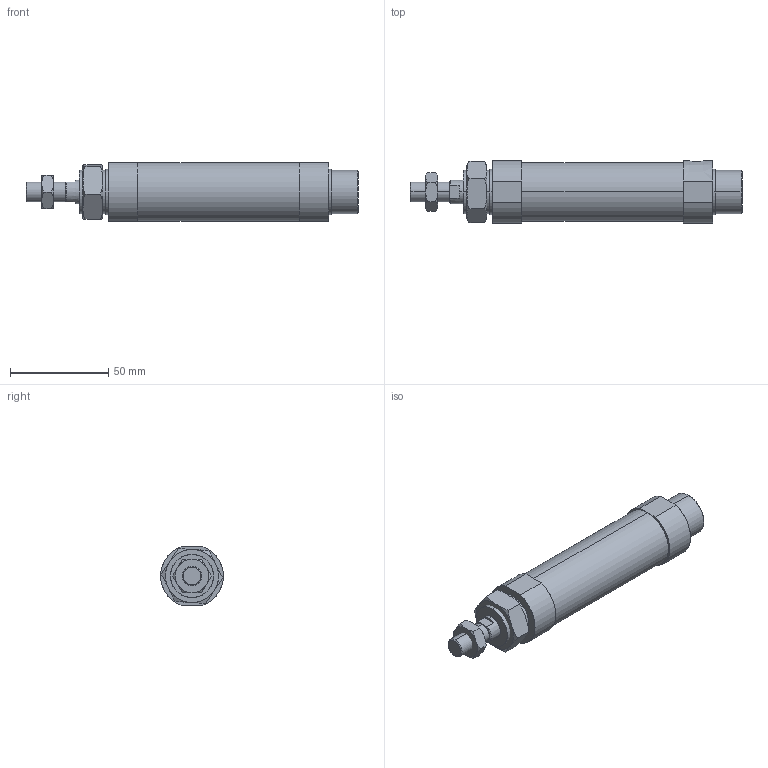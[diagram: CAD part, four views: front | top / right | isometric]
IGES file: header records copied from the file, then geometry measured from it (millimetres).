
Start section: SolidWorks IGES file using analytic representation for surfaces
Global section: file name: C:\Users\Toshiba\Desktop\J#1-25-25-N.IGS; native system: SolidWorks 2014; preprocessor: SolidWorks 2014; author: Toshiba; date: 160308.144722; units: millimetre
Bounding box: 169 x 32 x 30 mm (x, y, z)
Surface area: 19043.3 mm2 (no closed solid volume)
Topology: 0 solids, 0 shells, 93 faces, 1662 edges, 1660 vertices
Faces by surface type: bspline 61, revolution 32
